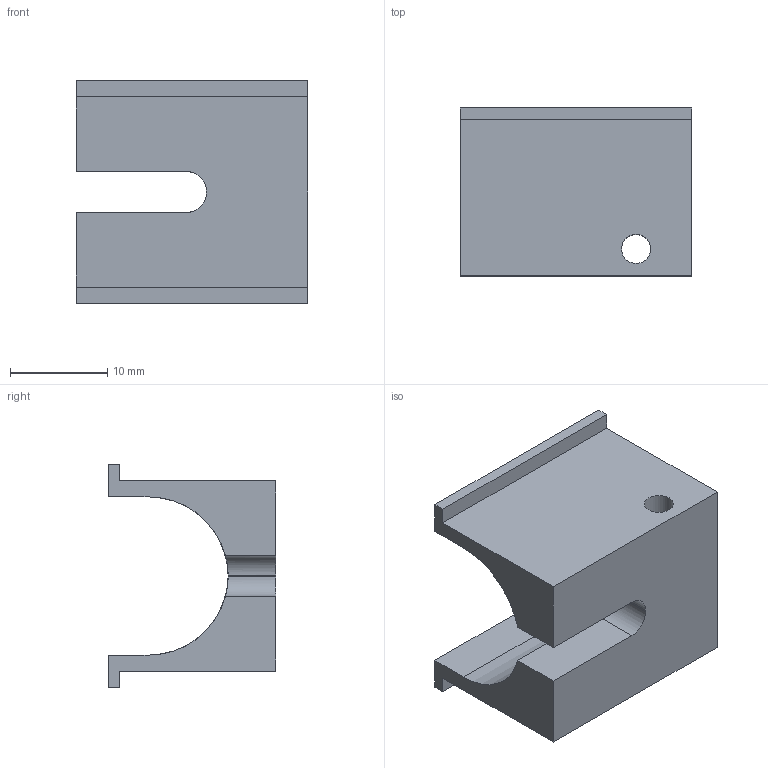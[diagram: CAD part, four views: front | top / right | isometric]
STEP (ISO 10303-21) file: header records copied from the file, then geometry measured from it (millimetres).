
FILE_DESCRIPTION(/* description */ (''),/* implementation_level */ '2;1');
FILE_NAME(/* name */ 'D:\Downloads\Glock-Glock_17_Pistol_Gen_3_and_DIY_Rail_System-FreeMenDontAsk\Glock-Glock_17_Pistol_Gen_3_and_DIY_Rail_System-FreeMenDontAsk\STEP\Front Rail Block.stp',/* time_stamp */ '2019-03-17T16:28:10-05:00',/* author */ ('johne'),/* organization */ (''),/* preprocessor_version */ 'ST-DEVELOPER v16.13',/* originating_system */ 'Autodesk Inventor 2018',/* authorisation */ '');
FILE_SCHEMA (('AUTOMOTIVE_DESIGN { 1 0 10303 214 3 1 1 }'));
Length unit declared in the file: millimetre
Products named in the file (1): Component1
Bounding box: 23.86 x 17.25 x 23 mm (x, y, z)
Volume: 3627.4 mm3; surface area: 2871.8 mm2
Topology: 1 solids, 1 shells, 21 faces, 57 edges, 38 vertices
Faces by surface type: plane 17, cylinder 4
Full cylindrical faces by diameter (mm): 3 x1
Entity records: 705 total; most frequent: CARTESIAN_POINT 134, ORIENTED_EDGE 112, DIRECTION 106, EDGE_CURVE 56, LINE 46, VECTOR 46, VERTEX_POINT 38, AXIS2_PLACEMENT_3D 30
